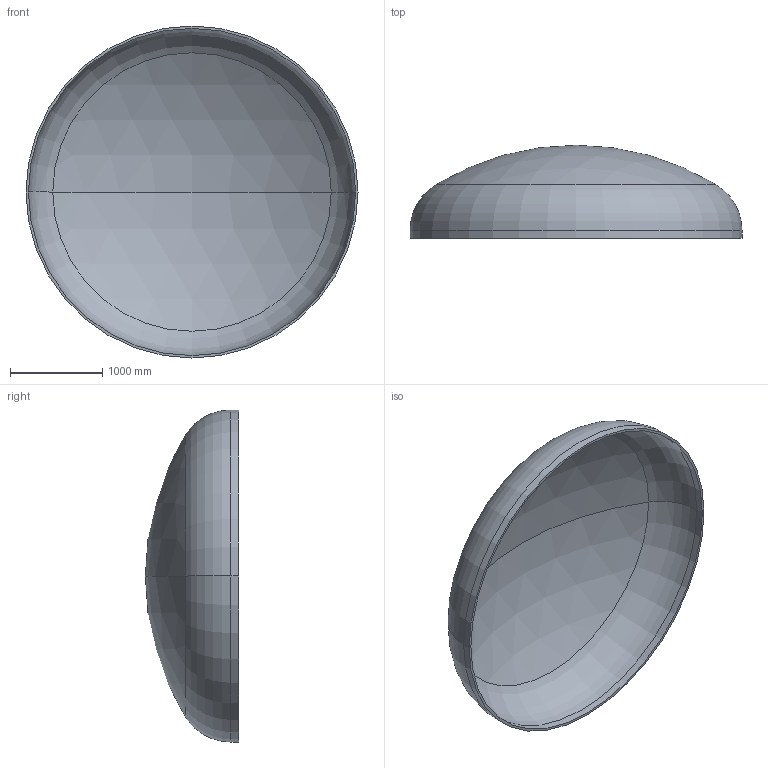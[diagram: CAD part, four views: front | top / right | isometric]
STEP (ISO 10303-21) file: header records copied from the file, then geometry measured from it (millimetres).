
FILE_DESCRIPTION (( 'STEP AP203' ), '1' );
FILE_NAME ('DIN 28013 Korbbogenform_-_Boden DIN 28013 - 3600 x 85 - I - s=26.step', '2016-07-01T20:15:12', ( '' ), ( '' ), 'SwSTEP 2.0', 'SolidWorks 2013', '' );
FILE_SCHEMA (( 'CONFIG_CONTROL_DESIGN' ));
Length unit declared in the file: millimetre
Products named in the file (1): DIN 28013 Korbbogenform_-_Boden DIN 28013 - 3600 x 85 - I - s=26
Bounding box: 3600 x 1011.19 x 3600 mm (x, y, z)
Volume: 387944572.2 mm3; surface area: 30135224 mm2
Topology: 1 solids, 1 shells, 13 faces, 24 edges, 14 vertices
Faces by surface type: torus 4, cylinder 4, sphere 4, plane 1
Entity records: 407 total; most frequent: DIRECTION 72, CARTESIAN_POINT 52, ORIENTED_EDGE 48, AXIS2_PLACEMENT_3D 34, EDGE_CURVE 24, CIRCLE 20, VERTEX_POINT 14, EDGE_LOOP 14
